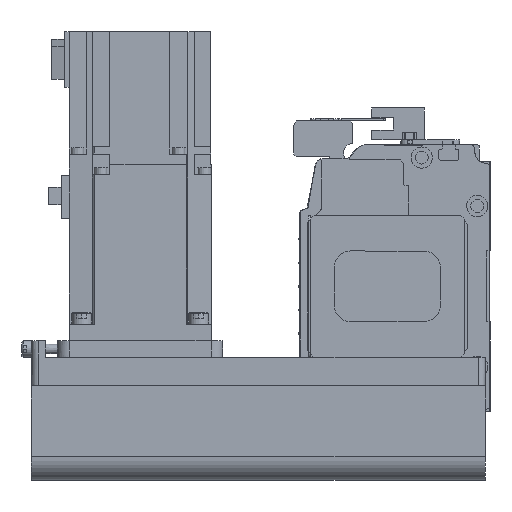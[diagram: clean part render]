
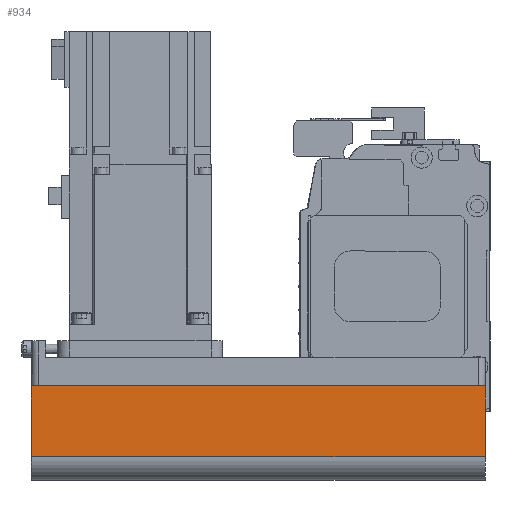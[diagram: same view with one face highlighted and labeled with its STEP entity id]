
A CAD part, left-side view. The second image highlights one B-rep face of the part: STEP entity #934.
In plain terms, the highlighted planar face has unit normal (-1, 0, 0) as drawn and (0, -1, 0) by its records, which use the part's own axes.
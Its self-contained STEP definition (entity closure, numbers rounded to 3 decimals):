
#934 = ADVANCED_FACE( '', ( #2521 ), #2522, .T. );
#2521 = FACE_OUTER_BOUND( '', #5033, .T. );
#2522 = PLANE( '', #5034 );
#5033 = EDGE_LOOP( '', ( #7565, #7566, #7567, #7568 ) );
#5034 = AXIS2_PLACEMENT_3D( '', #7569, #7570, #7571 );
#7565 = ORIENTED_EDGE( '', *, *, #14114, .F. );
#7566 = ORIENTED_EDGE( '', *, *, #14115, .F. );
#7567 = ORIENTED_EDGE( '', *, *, #14116, .T. );
#7568 = ORIENTED_EDGE( '', *, *, #14117, .T. );
#7569 = CARTESIAN_POINT( '', ( -192., -40., -12.1 ) );
#7570 = DIRECTION( '', ( 0., -1., 0. ) );
#7571 = DIRECTION( '', ( 0., 0., -1. ) );
#14114 = EDGE_CURVE( '', #16678, #16679, #16680, .T. );
#14115 = EDGE_CURVE( '', #16681, #16678, #16682, .T. );
#14116 = EDGE_CURVE( '', #16681, #16683, #16684, .T. );
#14117 = EDGE_CURVE( '', #16683, #16679, #16685, .T. );
#16678 = VERTEX_POINT( '', #20452 );
#16679 = VERTEX_POINT( '', #20453 );
#16680 = LINE( '', #20454, #20455 );
#16681 = VERTEX_POINT( '', #20456 );
#16682 = LINE( '', #20457, #20458 );
#16683 = VERTEX_POINT( '', #20459 );
#16684 = LINE( '', #20460, #20461 );
#16685 = LINE( '', #20462, #20463 );
#20452 = CARTESIAN_POINT( '', ( 0., -40., -12.1 ) );
#20453 = CARTESIAN_POINT( '', ( 0., -40., -42. ) );
#20454 = CARTESIAN_POINT( '', ( 0., -40., -12.1 ) );
#20455 = VECTOR( '', #25408, 1000. );
#20456 = CARTESIAN_POINT( '', ( -192., -40., -12.1 ) );
#20457 = CARTESIAN_POINT( '', ( -192., -40., -12.1 ) );
#20458 = VECTOR( '', #25409, 1000. );
#20459 = CARTESIAN_POINT( '', ( -192., -40., -42. ) );
#20460 = CARTESIAN_POINT( '', ( -192., -40., -12.1 ) );
#20461 = VECTOR( '', #25410, 1000. );
#20462 = CARTESIAN_POINT( '', ( -192., -40., -42. ) );
#20463 = VECTOR( '', #25411, 1000. );
#25408 = DIRECTION( '', ( 0., 0., -1. ) );
#25409 = DIRECTION( '', ( 1., 0., 0. ) );
#25410 = DIRECTION( '', ( 0., 0., -1. ) );
#25411 = DIRECTION( '', ( 1., 0., 0. ) );
